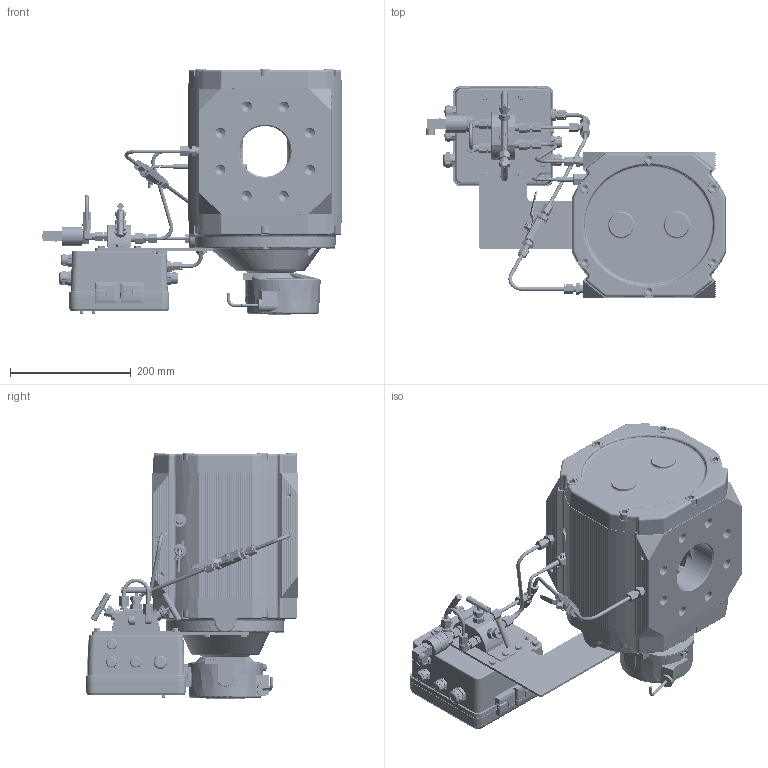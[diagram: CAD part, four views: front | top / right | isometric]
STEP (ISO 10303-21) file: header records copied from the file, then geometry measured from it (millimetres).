
FILE_DESCRIPTION(('STEP AP242'), '1');
FILE_NAME('ÑÃ-ÝÊÐ-Ð-250 c ÏÏÄ ñíèçó ââåðõ, êîðð ñïðàâà', '', ('UNSPECIFIED'), ('UNSPECIFIED'), 'C3D Converter', 'C3D Toolkit', '');
FILE_SCHEMA(('AP242_MANAGED_MODEL_BASED_3D_ENGINEERING_MIM_LF { 1 0 10303 442 1 1 4 }'));
Length unit declared in the file: millimetre
Bounding box: 497.5 x 351 x 406.4 mm (x, y, z)
Volume: 10341804 mm3; surface area: 1629456.8 mm2
Topology: 177 solids, 178 shells, 9809 faces, 25395 edges, 16481 vertices
Faces by surface type: plane 3351, extrusion 2893, cylinder 1965, cone 886, bspline 370, torus 306, sphere 38
Full cylindrical faces by diameter (mm): 1.5 x8, 1.95 x3, 2 x41, 2.2 x14, 2.3 x8, 2.459 x11, 2.5 x20, 2.791 x2, 3 x24, 3.1 x1, 3.2 x13, 3.242 x7, 3.3 x4, 3.45 x3, 3.459 x2, 3.688 x1, 4 x44, 4.134 x1, 4.3 x12, 4.5 x1, 4.917 x15, 5 x34, 5.2 x12, 5.5 x8, 6 x60, 6.2 x6, 6.5 x6, 6.6 x4, 6.75 x2, 7 x16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
Entity records: 515982 total; most frequent: CARTESIAN_POINT 217703, ORIENTED_EDGE 47685, DIRECTION 35497, EDGE_CURVE 23843, VERTEX_POINT 16382, VECTOR 13515, EDGE_LOOP 12197, B_SPLINE_CURVE_WITH_KNOTS 11169
